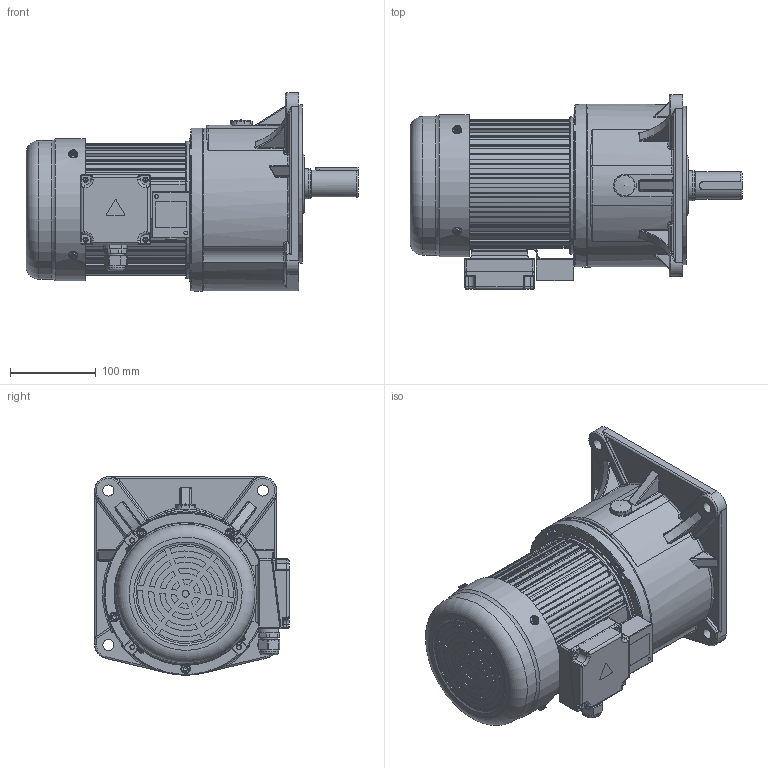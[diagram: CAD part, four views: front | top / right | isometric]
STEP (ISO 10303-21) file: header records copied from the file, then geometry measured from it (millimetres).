
FILE_DESCRIPTION(/* description */ (''),/* implementation_level */ '2;1');
FILE_NAME(/* name */ 'CV32-400-3～200外形多速比带刹车.stp',/* time_stamp */ '2025-05-02T10:23:07+08:00',/* author */ (''),/* organization */ (''),/* preprocessor_version */ 'ST-DEVELOPER v18.102',/* originating_system */ 'SIEMENS PLM Software NX 2027',/* authorisation */ '');
FILE_SCHEMA (('AP203_CONFIGURATION_CONTROLLED_3D_DESIGN_OF_MECHANICAL_PARTS_AND_ASSEMBLIES_MIM_LF { 1 0 10303 403 2 1 2}'));
Length unit declared in the file: millimetre
Products named in the file (1): CV32-400-3～200外形多速比带刹车_
objects
Bounding box: 387.5 x 227.21 x 231.56 mm (x, y, z)
Volume: 7608311.9 mm3; surface area: 521739.8 mm2
Topology: 22 solids, 22 shells, 3604 faces, 9439 edges, 6051 vertices
Faces by surface type: plane 1952, cylinder 984, cone 271, torus 168, extrusion 96, bspline 92, sphere 21, revolution 20
Full cylindrical faces by diameter (mm): 1 x1, 1.8 x1, 3 x1, 3.3 x4, 3.5 x1, 4 x1, 4.2 x12, 4.5 x2, 5 x8, 5.795 x5, 6.4 x4, 8 x1, 10 x5, 11 x9, 12.5 x1, 13 x5, 16 x3, 16.678 x1, 17 x1, 19.5 x1, 20 x5, 21 x1, 22.5 x1, 31.6 x1, 32 x1, 35 x2, 55 x1, 65 x1, 70 x1, 140.5 x2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
Entity records: 120736 total; most frequent: CARTESIAN_POINT 35036, ORIENTED_EDGE 18308, DIRECTION 16645, EDGE_CURVE 9154, VERTEX_POINT 5968, AXIS2_PLACEMENT_3D 5748, VECTOR 5129, LINE 5033
